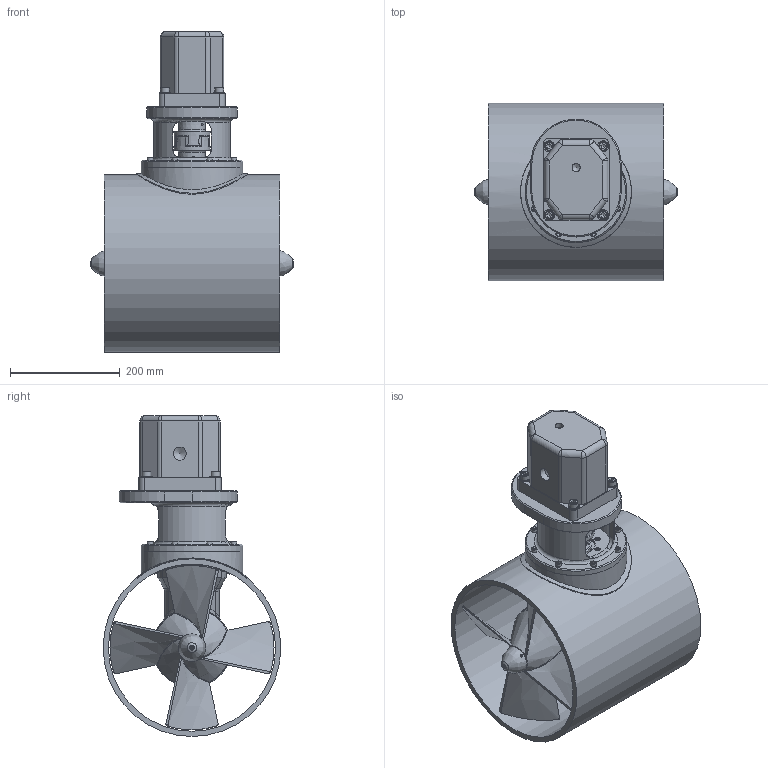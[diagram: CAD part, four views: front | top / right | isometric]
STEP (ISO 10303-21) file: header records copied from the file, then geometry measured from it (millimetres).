
FILE_DESCRIPTION(/* description */ (''),/* implementation_level */ '2;1');
FILE_NAME(/* name */ 'Q:\THRUSTERS\THRUSTER SALES & SUPPORT DOCS\THRUSTER Sales\H-T\H-0300-T\H-0300-T.stp',/* time_stamp */ '2020-03-04T15:26:25+00:00',/* author */ ('Jordan.Griffith'),/* organization */ (''),/* preprocessor_version */ 'ST-DEVELOPER v17',/* originating_system */ 'Autodesk Inventor 2019',/* authorisation */ '');
FILE_SCHEMA (('AUTOMOTIVE_DESIGN { 1 0 10303 214 3 1 1 }'));
Products named in the file (1): H-0300-T_Shrinkwrap_1
Bounding box: 370.39 x 323.85 x 585 mm (x, y, z)
Volume: 9382440 mm3; surface area: 1818052.3 mm2
Topology: 53 solids, 53 shells, 2076 faces, 5685 edges, 3819 vertices
Faces by surface type: cylinder 780, plane 705, cone 405, torus 102, bspline 74, sphere 10
Full cylindrical faces by diameter (mm): 3.242 x4, 4 x4, 4.134 x50, 4.2 x4, 4.917 x9, 5 x24, 5.1 x4, 5.2 x36, 5.5 x16, 6 x8, 6.5 x12, 7 x4, 8.5 x16, 8.566 x2, 9 x2, 9.5 x36, 10 x12, 10.8 x2, 11 x4, 14.95 x1, 16 x4, 20 x4, 22.225 x1, 22.5 x1, 24.117 x2, 25 x3, 27 x1, 29 x1, 30 x3, 33 x2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
Entity records: 76162 total; most frequent: CARTESIAN_POINT 20432, DIRECTION 11459, ORIENTED_EDGE 11178, EDGE_CURVE 5589, AXIS2_PLACEMENT_3D 4636, VERTEX_POINT 3819, CIRCLE 2597, EDGE_LOOP 2510
